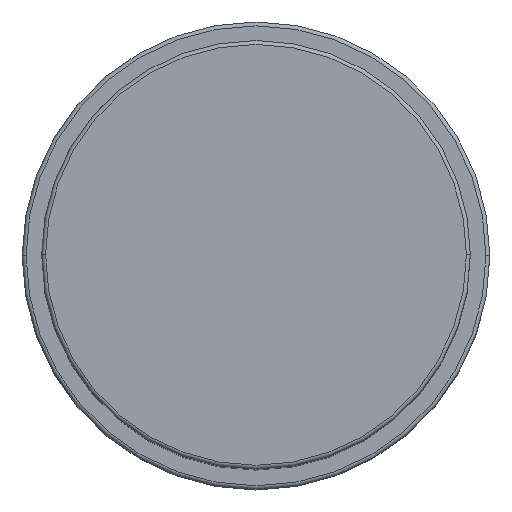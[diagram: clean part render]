
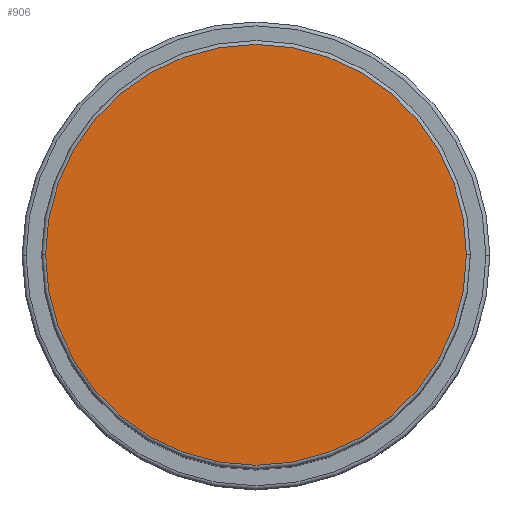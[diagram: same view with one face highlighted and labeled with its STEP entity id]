
A CAD part, top view. The second image highlights one B-rep face of the part: STEP entity #906.
In plain terms, the highlighted planar face has unit normal (0, 0, 1).
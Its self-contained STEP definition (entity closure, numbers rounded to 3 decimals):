
#129 = DIRECTION ( 'NONE',  ( 1., 0., 0. ) ) ;
#150 = AXIS2_PLACEMENT_3D ( 'NONE', #879, #1180, #1045 ) ;
#284 = EDGE_CURVE ( 'NONE', #1445, #1012, #1757, .T. ) ;
#325 = CARTESIAN_POINT ( 'NONE',  ( 0., 0., 96. ) ) ;
#328 = EDGE_LOOP ( 'NONE', ( #1728, #1808 ) ) ;
#436 = CARTESIAN_POINT ( 'NONE',  ( 0., 0., 96. ) ) ;
#516 = AXIS2_PLACEMENT_3D ( 'NONE', #325, #1062, #1210 ) ;
#571 = DIRECTION ( 'NONE',  ( 0., 0., 1. ) ) ;
#591 = CARTESIAN_POINT ( 'NONE',  ( 27., 0., 96. ) ) ;
#879 = CARTESIAN_POINT ( 'NONE',  ( 0., 0., 96. ) ) ;
#906 = ADVANCED_FACE ( 'NONE', ( #1664 ), #1911, .T. ) ;
#1012 = VERTEX_POINT ( 'NONE', #1357 ) ;
#1045 = DIRECTION ( 'NONE',  ( 1., 0., 0. ) ) ;
#1062 = DIRECTION ( 'NONE',  ( 0., 0., 1. ) ) ;
#1180 = DIRECTION ( 'NONE',  ( 0., 0., 1. ) ) ;
#1210 = DIRECTION ( 'NONE',  ( 1., 0., 0. ) ) ;
#1357 = CARTESIAN_POINT ( 'NONE',  ( -27., 0., 96. ) ) ;
#1412 = EDGE_CURVE ( 'NONE', #1012, #1445, #1967, .T. ) ;
#1445 = VERTEX_POINT ( 'NONE', #591 ) ;
#1664 = FACE_OUTER_BOUND ( 'NONE', #328, .T. ) ;
#1728 = ORIENTED_EDGE ( 'NONE', *, *, #284, .T. ) ;
#1757 = CIRCLE ( 'NONE', #516, 27. ) ;
#1808 = ORIENTED_EDGE ( 'NONE', *, *, #1412, .T. ) ;
#1833 = AXIS2_PLACEMENT_3D ( 'NONE', #436, #571, #129 ) ;
#1911 = PLANE ( 'NONE',  #1833 ) ;
#1967 = CIRCLE ( 'NONE', #150, 27. ) ;
